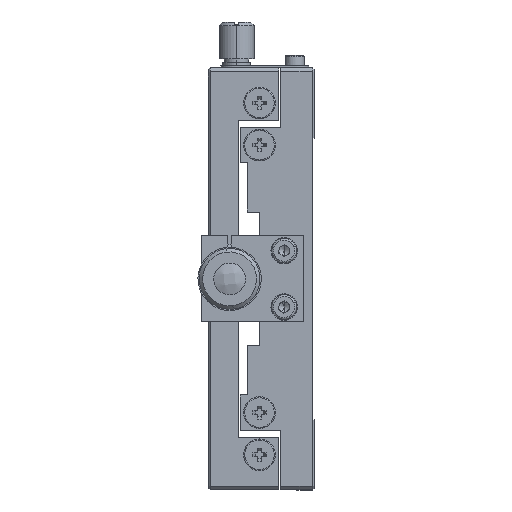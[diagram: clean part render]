
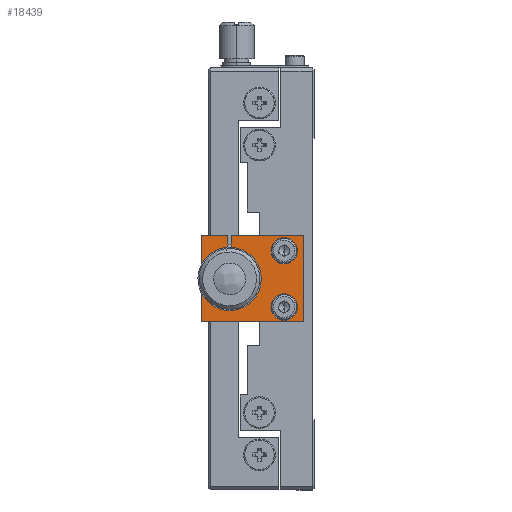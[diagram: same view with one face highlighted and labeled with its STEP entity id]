
A CAD part, left-side view. The second image highlights one B-rep face of the part: STEP entity #18439.
In plain terms, the highlighted planar face has unit normal (-1, 0, 0).
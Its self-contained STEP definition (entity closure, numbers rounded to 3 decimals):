
#976 = CARTESIAN_POINT ( 'NONE',  ( -45.5, 8.5, 8. ) ) ;
#977 = DIRECTION ( 'NONE',  ( -1., 0., 0. ) ) ;
#978 = DIRECTION ( 'NONE',  ( 0., 0., 1. ) ) ;
#2212 = EDGE_CURVE ( 'NONE', #4853, #4854, #4599, .T. ) ;
#3495 = CARTESIAN_POINT ( 'NONE',  ( -45.5, 8.5, -8. ) ) ;
#3497 = DIRECTION ( 'NONE',  ( -1., 0., 0. ) ) ;
#3499 = DIRECTION ( 'NONE',  ( 0., 0., 1. ) ) ;
#3738 = DIRECTION ( 'NONE',  ( 0., 0., -1. ) ) ;
#3740 = DIRECTION ( 'NONE',  ( -1., 0., 0. ) ) ;
#3742 = CARTESIAN_POINT ( 'NONE',  ( -45.5, 24., 0. ) ) ;
#4338 = AXIS2_PLACEMENT_3D ( 'NONE', #3742, #3740, #3738 ) ;
#4599 = CIRCLE ( 'NONE', #4338, 7.3 ) ;
#4846 = VERTEX_POINT ( 'NONE', #7494 ) ;
#4848 = VERTEX_POINT ( 'NONE', #7498 ) ;
#4853 = VERTEX_POINT ( 'NONE', #7508 ) ;
#4854 = VERTEX_POINT ( 'NONE', #7510 ) ;
#4859 = VERTEX_POINT ( 'NONE', #7520 ) ;
#4861 = VERTEX_POINT ( 'NONE', #7524 ) ;
#5249 = VERTEX_POINT ( 'NONE', #8238 ) ;
#5254 = VERTEX_POINT ( 'NONE', #8243 ) ;
#5292 = VERTEX_POINT ( 'NONE', #8281 ) ;
#5308 = VERTEX_POINT ( 'NONE', #8297 ) ;
#5311 = VERTEX_POINT ( 'NONE', #8300 ) ;
#5313 = VERTEX_POINT ( 'NONE', #8302 ) ;
#5317 = VERTEX_POINT ( 'NONE', #8306 ) ;
#7494 = CARTESIAN_POINT ( 'NONE',  ( -45.5, 8.5, -4.25 ) ) ;
#7498 = CARTESIAN_POINT ( 'NONE',  ( -45.5, 8.5, -11.75 ) ) ;
#7508 = CARTESIAN_POINT ( 'NONE',  ( -45.5, 24.5, 7.283 ) ) ;
#7510 = CARTESIAN_POINT ( 'NONE',  ( -45.5, 24., -7.3 ) ) ;
#7520 = CARTESIAN_POINT ( 'NONE',  ( -45.5, 8.5, 4.25 ) ) ;
#7524 = CARTESIAN_POINT ( 'NONE',  ( -45.5, 8.5, 11.75 ) ) ;
#8238 = CARTESIAN_POINT ( 'NONE',  ( -45.5, 24.5, 12.25 ) ) ;
#8243 = CARTESIAN_POINT ( 'NONE',  ( -45.5, 23.5, 7.283 ) ) ;
#8281 = CARTESIAN_POINT ( 'NONE',  ( -45.5, 32., 12.25 ) ) ;
#8297 = CARTESIAN_POINT ( 'NONE',  ( -45.5, 23.5, 12.25 ) ) ;
#8300 = CARTESIAN_POINT ( 'NONE',  ( -45.5, 32., -12.25 ) ) ;
#8302 = CARTESIAN_POINT ( 'NONE',  ( -45.5, 3., -12.25 ) ) ;
#8306 = CARTESIAN_POINT ( 'NONE',  ( -45.5, 3., 12.25 ) ) ;
#11568 = AXIS2_PLACEMENT_3D ( 'NONE', #976, #977, #978 ) ;
#11575 = CIRCLE ( 'NONE', #11568, 3.75 ) ;
#12144 = EDGE_CURVE ( 'NONE', #4859, #4861, #11575, .T. ) ;
#12630 = ORIENTED_EDGE ( 'NONE', *, *, #2212, .F. ) ;
#12631 = ORIENTED_EDGE ( 'NONE', *, *, #16135, .F. ) ;
#12632 = ORIENTED_EDGE ( 'NONE', *, *, #16181, .F. ) ;
#12633 = ORIENTED_EDGE ( 'NONE', *, *, #16187, .T. ) ;
#12634 = ORIENTED_EDGE ( 'NONE', *, *, #16186, .T. ) ;
#12635 = ORIENTED_EDGE ( 'NONE', *, *, #16185, .F. ) ;
#12636 = ORIENTED_EDGE ( 'NONE', *, *, #16184, .T. ) ;
#12637 = ORIENTED_EDGE ( 'NONE', *, *, #16142, .F. ) ;
#12638 = ORIENTED_EDGE ( 'NONE', *, *, #16143, .F. ) ;
#12639 = ORIENTED_EDGE ( 'NONE', *, *, #22041, .F. ) ;
#12640 = ORIENTED_EDGE ( 'NONE', *, *, #16136, .F. ) ;
#12641 = ORIENTED_EDGE ( 'NONE', *, *, #12144, .F. ) ;
#12642 = ORIENTED_EDGE ( 'NONE', *, *, #16137, .F. ) ;
#13943 = AXIS2_PLACEMENT_3D ( 'NONE', #20202, #20199, #20208 ) ;
#13965 = VECTOR ( 'NONE', #20145, 1000. ) ;
#13966 = VECTOR ( 'NONE', #20142, 1000. ) ;
#13967 = VECTOR ( 'NONE', #20137, 1000. ) ;
#13969 = VECTOR ( 'NONE', #20139, 1000. ) ;
#13970 = VECTOR ( 'NONE', #20129, 1000. ) ;
#14019 = VECTOR ( 'NONE', #20008, 1000. ) ;
#14020 = VECTOR ( 'NONE', #20005, 1000. ) ;
#14025 = AXIS2_PLACEMENT_3D ( 'NONE', #19989, #19990, #19991 ) ;
#14027 = AXIS2_PLACEMENT_3D ( 'NONE', #19984, #19985, #19986 ) ;
#14028 = CIRCLE ( 'NONE', #14025, 3.75 ) ;
#14029 = AXIS2_PLACEMENT_3D ( 'NONE', #19981, #19982, #19983 ) ;
#14030 = CIRCLE ( 'NONE', #14027, 3.75 ) ;
#14032 = CIRCLE ( 'NONE', #14029, 7.3 ) ;
#16135 = EDGE_CURVE ( 'NONE', #4854, #5254, #14032, .T. ) ;
#16136 = EDGE_CURVE ( 'NONE', #4846, #4848, #14030, .T. ) ;
#16137 = EDGE_CURVE ( 'NONE', #4861, #4859, #14028, .T. ) ;
#16142 = EDGE_CURVE ( 'NONE', #5292, #5249, #20003, .T. ) ;
#16143 = EDGE_CURVE ( 'NONE', #5249, #4853, #20006, .T. ) ;
#16181 = EDGE_CURVE ( 'NONE', #5254, #5308, #20127, .T. ) ;
#16184 = EDGE_CURVE ( 'NONE', #5292, #5311, #20135, .T. ) ;
#16185 = EDGE_CURVE ( 'NONE', #5313, #5311, #20122, .T. ) ;
#16186 = EDGE_CURVE ( 'NONE', #5313, #5317, #20140, .T. ) ;
#16187 = EDGE_CURVE ( 'NONE', #5317, #5308, #20143, .T. ) ;
#18439 = ADVANCED_FACE ( 'NONE', ( #20203, #20196, #20205 ), #20206, .F. ) ;
#19981 = CARTESIAN_POINT ( 'NONE',  ( -45.5, 24., 0. ) ) ;
#19982 = DIRECTION ( 'NONE',  ( -1., 0., 0. ) ) ;
#19983 = DIRECTION ( 'NONE',  ( 0., 0., -1. ) ) ;
#19984 = CARTESIAN_POINT ( 'NONE',  ( -45.5, 8.5, -8. ) ) ;
#19985 = DIRECTION ( 'NONE',  ( -1., 0., 0. ) ) ;
#19986 = DIRECTION ( 'NONE',  ( 0., 0., 1. ) ) ;
#19989 = CARTESIAN_POINT ( 'NONE',  ( -45.5, 8.5, 8. ) ) ;
#19990 = DIRECTION ( 'NONE',  ( -1., 0., 0. ) ) ;
#19991 = DIRECTION ( 'NONE',  ( 0., 0., 1. ) ) ;
#20003 = LINE ( 'NONE', #20004, #14020 ) ;
#20004 = CARTESIAN_POINT ( 'NONE',  ( -45.5, 3., 12.25 ) ) ;
#20005 = DIRECTION ( 'NONE',  ( 0., -1., 0. ) ) ;
#20006 = LINE ( 'NONE', #20007, #14019 ) ;
#20007 = CARTESIAN_POINT ( 'NONE',  ( -45.5, 24.5, -12.25 ) ) ;
#20008 = DIRECTION ( 'NONE',  ( 0., 0., -1. ) ) ;
#20122 = LINE ( 'NONE', #20138, #13969 ) ;
#20127 = LINE ( 'NONE', #20128, #13970 ) ;
#20128 = CARTESIAN_POINT ( 'NONE',  ( -45.5, 23.5, -12.25 ) ) ;
#20129 = DIRECTION ( 'NONE',  ( 0., 0., 1. ) ) ;
#20135 = LINE ( 'NONE', #20136, #13967 ) ;
#20136 = CARTESIAN_POINT ( 'NONE',  ( -45.5, 32., -12.25 ) ) ;
#20137 = DIRECTION ( 'NONE',  ( 0., 0., -1. ) ) ;
#20138 = CARTESIAN_POINT ( 'NONE',  ( -45.5, 3., -12.25 ) ) ;
#20139 = DIRECTION ( 'NONE',  ( 0., 1., 0. ) ) ;
#20140 = LINE ( 'NONE', #20141, #13966 ) ;
#20141 = CARTESIAN_POINT ( 'NONE',  ( -45.5, 3., -12.25 ) ) ;
#20142 = DIRECTION ( 'NONE',  ( 0., 0., 1. ) ) ;
#20143 = LINE ( 'NONE', #20144, #13965 ) ;
#20144 = CARTESIAN_POINT ( 'NONE',  ( -45.5, 3., 12.25 ) ) ;
#20145 = DIRECTION ( 'NONE',  ( 0., 1., 0. ) ) ;
#20196 = FACE_BOUND ( 'NONE', #24410, .T. ) ;
#20199 = DIRECTION ( 'NONE',  ( 1., 0., 0. ) ) ;
#20202 = CARTESIAN_POINT ( 'NONE',  ( -45.5, 3., -12.25 ) ) ;
#20203 = FACE_BOUND ( 'NONE', #24407, .T. ) ;
#20205 = FACE_OUTER_BOUND ( 'NONE', #24406, .T. ) ;
#20206 = PLANE ( 'NONE',  #13943 ) ;
#20208 = DIRECTION ( 'NONE',  ( 0., 0., -1. ) ) ;
#22041 = EDGE_CURVE ( 'NONE', #4848, #4846, #24976, .T. ) ;
#24406 = EDGE_LOOP ( 'NONE', ( #12638, #12637, #12636, #12635, #12634, #12633, #12632, #12631, #12630 ) ) ;
#24407 = EDGE_LOOP ( 'NONE', ( #12642, #12641 ) ) ;
#24410 = EDGE_LOOP ( 'NONE', ( #12640, #12639 ) ) ;
#24974 = AXIS2_PLACEMENT_3D ( 'NONE', #3495, #3497, #3499 ) ;
#24976 = CIRCLE ( 'NONE', #24974, 3.75 ) ;
